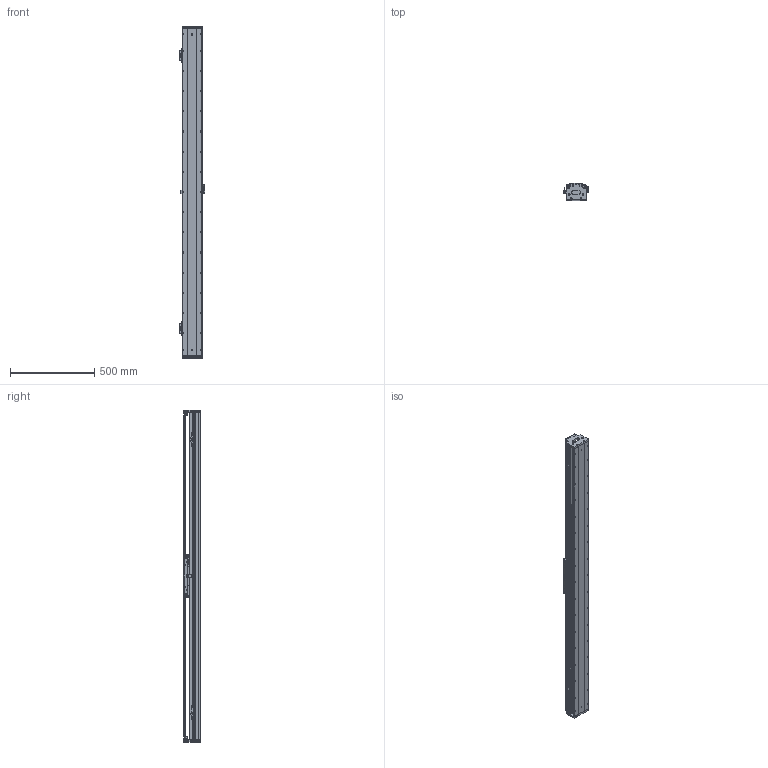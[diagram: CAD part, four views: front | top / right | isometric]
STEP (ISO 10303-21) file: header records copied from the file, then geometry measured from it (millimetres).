
FILE_DESCRIPTION (( 'STEP AP203' ), '1' );
FILE_NAME ('DKW119-C3-W060(T1620-L005-0.2).STEP', '2021-09-02T01:35:55', ( '微软用户' ), ( '微软中国' ), 'SwSTEP 2.0', 'SolidWorks 2018', '' );
FILE_SCHEMA (( 'CONFIG_CONTROL_DESIGN' ));
Length unit declared in the file: millimetre
Products named in the file (23): RUS嫖掑喜; 12160-0000-003-00 DKW120詩湍嶺輸; DKW119-RU-DTJ-00 RU2黍杅芛盓殤; Ru2; 12160-0000-004-00  DKW120詩湍揤輸; 萇儂堤盄 ^DKW119-C3-W060(T1620-L005-0.2); RUS嫖掑郪璃; DKW119 单轴模组-拉钢带组件; CKMA01-W060-TRLxxx; CKM03-W060_00; pm-y65; DKW-HXJ-JY-00 遣喳砎蝶; DKW119-C3-W060(T1620-L005-0.2); 10980-0001-003-00 嫖萇羲壽嘐隅釱; 11062-0001-004-00 DKW119傷啣; 嫖萇羲壽蚾饜极; 06652-0001-004-00 DKW120嶺輸菜輸; 嫖萇羲壽蚾饜极A; 12018-0001-002-00 詩湍; 12018-0001-001-00 菁釱; DKW-SG-GYP-H-00 嫖萇覜茼え; 砎蝶猾沭; MSB15-DG-U
Assembly tree (36 placements, depth 3):
  DKW119-C3-W060(T1620-L005-0.2)
    12018-0001-001-00 菁釱
    MSB15-DG-U  x2
    DKW119-RU-DTJ-00 RU2黍杅芛盓殤
    萇儂堤盄 ^DKW119-C3-W060(T1620-L005-0.2)
    CKMA01-W060-TRLxxx
    DKW119 单轴模组-拉钢带组件
      DKW-HXJ-JY-00 遣喳砎蝶  x4
      11062-0001-004-00 DKW119傷啣  x2
      06652-0001-004-00 DKW120嶺輸菜輸  x4
      12018-0001-002-00 詩湍
      砎蝶猾沭  x2
      12160-0000-003-00 DKW120詩湍嶺輸  x2
      12160-0000-004-00  DKW120詩湍揤輸  x2
    嫖萇羲壽蚾饜极
      pm-y65
      10980-0001-003-00 嫖萇羲壽嘐隅釱
    嫖萇羲壽蚾饜极A
      pm-y65  x2
      10980-0001-003-00 嫖萇羲壽嘐隅釱
    DKW-SG-GYP-H-00 嫖萇覜茼え
    RUS嫖掑郪璃
      RUS嫖掑喜
      Ru2
    CKM03-W060_00
Bounding box: 154.3 x 99 x 1976 mm (x, y, z)
Volume: 8729655 mm3; surface area: 2816409.8 mm2
Topology: 42 solids, 91 shells, 4334 faces, 11577 edges, 7386 vertices
Faces by surface type: plane 2154, cylinder 1515, cone 418, bspline 247
Entity records: 130649 total; most frequent: CARTESIAN_POINT 43640, ORIENTED_EDGE 17531, DIRECTION 16916, EDGE_CURVE 8806, VERTEX_POINT 5781, AXIS2_PLACEMENT_3D 5758, LINE 5400, VECTOR 5400
